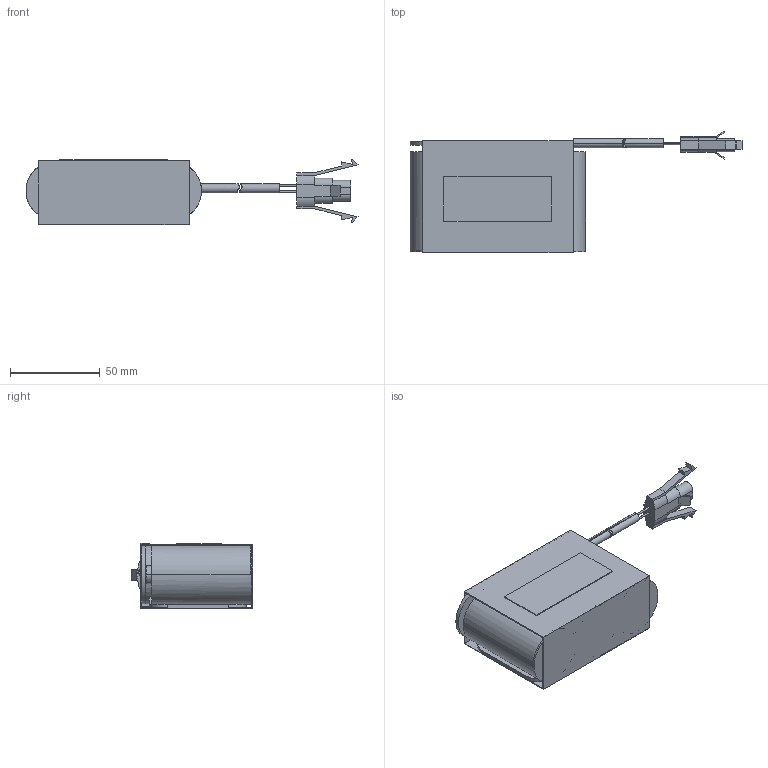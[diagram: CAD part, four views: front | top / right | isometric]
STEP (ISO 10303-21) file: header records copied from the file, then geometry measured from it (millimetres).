
FILE_DESCRIPTION((''),'2;1');
FILE_NAME('15012479Z_DMEC_89800384_3B-55','2018-07-11T13:01:38',('Emanuel.Wild'),(''),'CREO PARAMETRIC BY PTC INC, 2017380','CREO PARAMETRIC BY PTC INC, 2017380','');
FILE_SCHEMA(('AUTOMOTIVE_DESIGN { 1 0 10303 214 1 1 1 1 }'));
Length unit declared in the file: millimetre
Products named in the file (1): 15012479Z_DMEC_89800384_3B-55
Bounding box: 185.01 x 67.75 x 36.3 mm (x, y, z)
Volume: 168318.9 mm3; surface area: 56101.6 mm2
Topology: 5 solids, 5 shells, 220 faces, 605 edges, 394 vertices
Faces by surface type: plane 133, cylinder 79, torus 6, extrusion 2
Entity records: 7625 total; most frequent: CARTESIAN_POINT 1553, ORIENTED_EDGE 1210, DIRECTION 1123, EDGE_CURVE 605, VERTEX_POINT 394, AXIS2_PLACEMENT_3D 378, VECTOR 367, LINE 365
